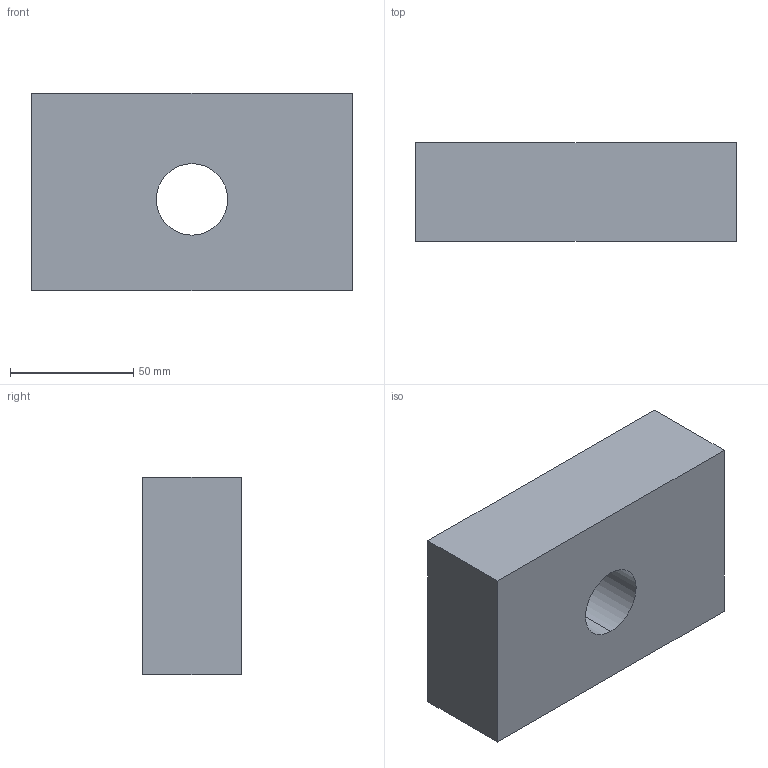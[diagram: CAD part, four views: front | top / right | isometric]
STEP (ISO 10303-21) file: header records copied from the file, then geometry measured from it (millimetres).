
FILE_DESCRIPTION (( 'STEP AP203' ), '1' );
FILE_NAME ('11080130.STEP', '2020-01-09T14:39:31', ( '' ), ( '' ), 'SwSTEP 2.0', 'SolidWorks 2013', '' );
FILE_SCHEMA (( 'CONFIG_CONTROL_DESIGN' ));
Length unit declared in the file: millimetre
Products named in the file (1): 11080130
Bounding box: 130 x 40 x 80 mm (x, y, z)
Volume: 389579.2 mm3; surface area: 39923.2 mm2
Topology: 1 solids, 1 shells, 8 faces, 18 edges, 12 vertices
Faces by surface type: plane 6, cylinder 2
Entity records: 307 total; most frequent: DIRECTION 40, CARTESIAN_POINT 39, ORIENTED_EDGE 36, EDGE_CURVE 18, VECTOR 14, LINE 14, AXIS2_PLACEMENT_3D 13, VERTEX_POINT 12
